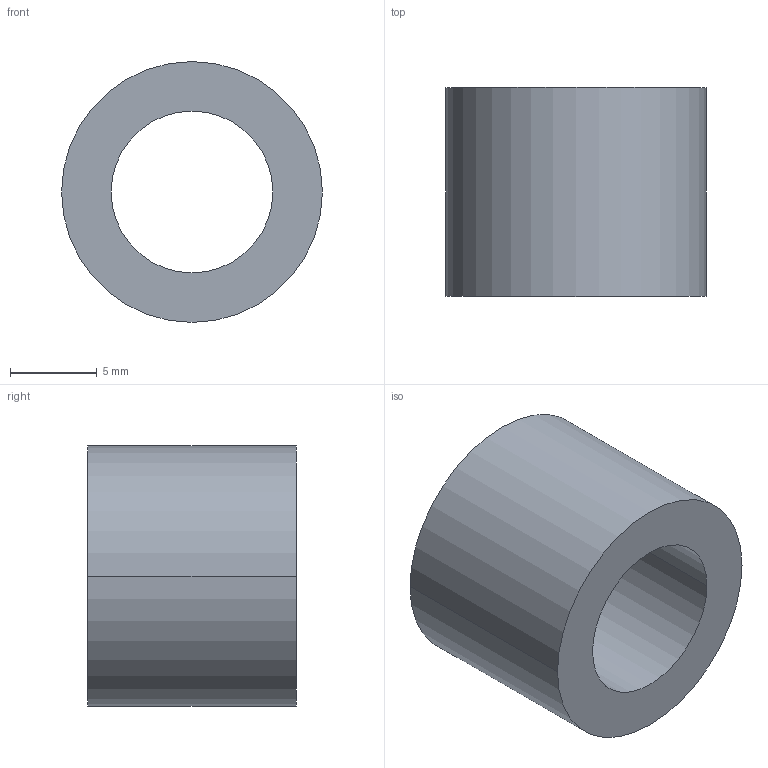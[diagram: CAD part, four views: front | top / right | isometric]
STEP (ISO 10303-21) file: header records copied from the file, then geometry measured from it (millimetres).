
FILE_DESCRIPTION (( 'STEP AP203' ), '1' );
FILE_NAME ('30800.WPP15E9.3.step', '2019-01-23T22:32:31', ( '' ), ( '' ), 'SwSTEP 2.0', 'SolidWorks 2017', '' );
FILE_SCHEMA (( 'CONFIG_CONTROL_DESIGN' ));
Length unit declared in the file: millimetre
Products named in the file (1): 30800.WPP15E9.3
Bounding box: 15 x 12 x 15 mm (x, y, z)
Volume: 1277.9 mm3; surface area: 1110.4 mm2
Topology: 1 solids, 1 shells, 8 faces, 16 edges, 10 vertices
Faces by surface type: cylinder 4, torus 2, plane 2
Entity records: 297 total; most frequent: DIRECTION 46, CARTESIAN_POINT 35, ORIENTED_EDGE 32, AXIS2_PLACEMENT_3D 21, EDGE_CURVE 16, CIRCLE 12, EDGE_LOOP 10, VERTEX_POINT 10
